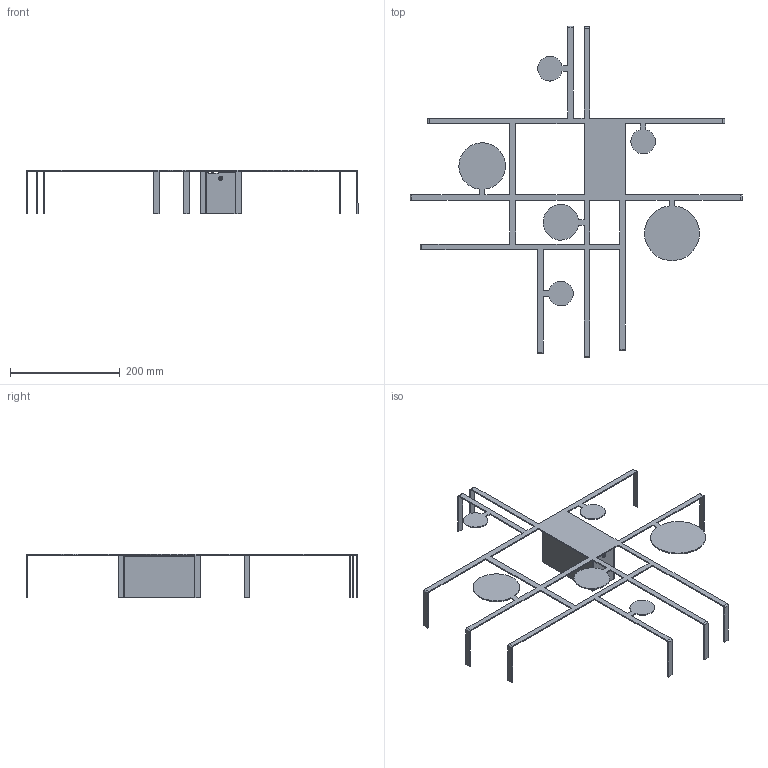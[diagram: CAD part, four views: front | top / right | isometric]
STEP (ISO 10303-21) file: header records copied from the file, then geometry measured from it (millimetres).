
FILE_DESCRIPTION (( 'STEP AP203' ), '1' );
FILE_NAME ('APMANIFESTOX2XX-Rev 01-PER 3D.STEP', '2024-05-28T07:09:10', ( '' ), ( '' ), 'SwSTEP 2.0', 'SolidWorks 2024', '' );
FILE_SCHEMA (( 'CONFIG_CONTROL_DESIGN' ));
Length unit declared in the file: millimetre
Products named in the file (6): WSMCVIF-04A10-0141_ISO 7380 - M4 x 8 --- 8C; APMANIFESTOX2XX-Rev 01-PER 3D; Prigioniero Autoagganciante  PFH - PSM_PRIGIONIERO PFH M3X10; WSCM2C0118-0100-02_Default<A macchina>; WSCM2C0119-0100-02; WSCM2C0117-0100-00
Assembly tree (7 placements, depth 3):
  APMANIFESTOX2XX-Rev 01-PER 3D
    WSMCVIF-04A10-0141_ISO 7380 - M4 x 8 --- 8C  x2
    WSCM2C0119-0100-02
      Prigioniero Autoagganciante  PFH - PSM_PRIGIONIERO PFH M3X10  x2
    WSCM2C0117-0100-00
    WSCM2C0118-0100-02_Default<A macchina>
Bounding box: 605.25 x 604.58 x 80 mm (x, y, z)
Volume: 187893.2 mm3; surface area: 224053.9 mm2
Topology: 10 solids, 10 shells, 359 faces, 825 edges, 488 vertices
Faces by surface type: plane 218, cylinder 89, torus 28, cone 12, bspline 8, sphere 4
Entity records: 10001 total; most frequent: CARTESIAN_POINT 1914, DIRECTION 1585, ORIENTED_EDGE 1494, EDGE_CURVE 747, AXIS2_PLACEMENT_3D 540, VECTOR 505, LINE 505, VERTEX_POINT 443
